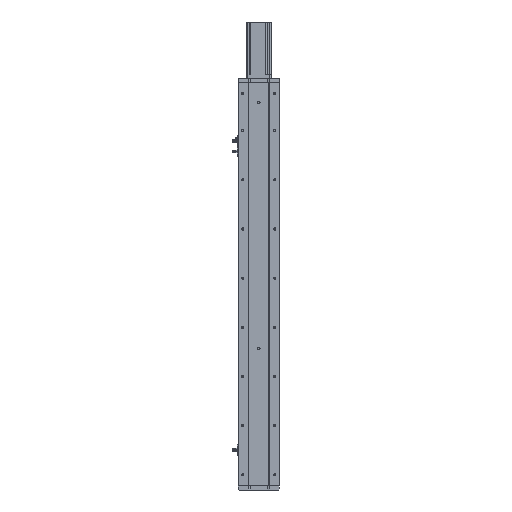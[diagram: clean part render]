
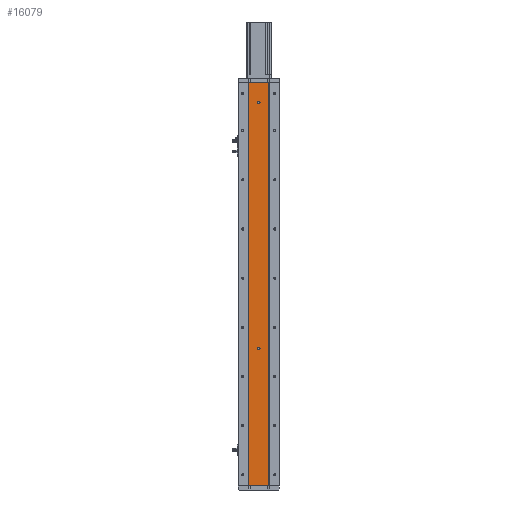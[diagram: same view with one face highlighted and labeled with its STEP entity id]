
A CAD part, left-side view. The second image highlights one B-rep face of the part: STEP entity #16079.
In plain terms, the highlighted planar face has unit normal (-1, 0, 0).
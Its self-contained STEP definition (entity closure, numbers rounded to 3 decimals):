
#345 = AXIS2_PLACEMENT_3D ( 'NONE', #36694, #17177, #39999 ) ;
#692 = VERTEX_POINT ( 'NONE', #10237 ) ;
#2375 = VECTOR ( 'NONE', #36708, 1000. ) ;
#4261 = CARTESIAN_POINT ( 'NONE',  ( -18.926, 0., 935. ) ) ;
#4463 = CARTESIAN_POINT ( 'NONE',  ( -18.926, 24.785, 985. ) ) ;
#4665 = CARTESIAN_POINT ( 'NONE',  ( -18.926, 24.785, 985. ) ) ;
#4821 = CARTESIAN_POINT ( 'NONE',  ( -18.926, -24.785, 985. ) ) ;
#4851 = VECTOR ( 'NONE', #30835, 1000. ) ;
#5775 = FACE_BOUND ( 'NONE', #11322, .T. ) ;
#6216 = VERTEX_POINT ( 'NONE', #28707 ) ;
#7237 = AXIS2_PLACEMENT_3D ( 'NONE', #4463, #27371, #7778 ) ;
#7567 = DIRECTION ( 'NONE',  ( 0., 0., 1. ) ) ;
#7778 = DIRECTION ( 'NONE',  ( 0., 0., -1. ) ) ;
#8163 = ORIENTED_EDGE ( 'NONE', *, *, #15232, .F. ) ;
#8351 = CARTESIAN_POINT ( 'NONE',  ( -18.926, 24.785, 0. ) ) ;
#8797 = CARTESIAN_POINT ( 'NONE',  ( -18.926, 0., 335. ) ) ;
#9361 = ORIENTED_EDGE ( 'NONE', *, *, #33111, .T. ) ;
#10237 = CARTESIAN_POINT ( 'NONE',  ( -18.926, 24.785, 985. ) ) ;
#10461 = CIRCLE ( 'NONE', #16749, 3. ) ;
#10624 = CARTESIAN_POINT ( 'NONE',  ( -18.926, -24.785, 985. ) ) ;
#10991 = EDGE_LOOP ( 'NONE', ( #15317, #41967, #8163, #9361 ) ) ;
#11322 = EDGE_LOOP ( 'NONE', ( #20265, #14601 ) ) ;
#11656 = DIRECTION ( 'NONE',  ( 0., -1., 0. ) ) ;
#12092 = DIRECTION ( 'NONE',  ( 0., 0., 1. ) ) ;
#12277 = EDGE_CURVE ( 'NONE', #38129, #14719, #37068, .T. ) ;
#12297 = FACE_BOUND ( 'NONE', #27976, .T. ) ;
#12794 = CIRCLE ( 'NONE', #41210, 3. ) ;
#13102 = CARTESIAN_POINT ( 'NONE',  ( -18.926, 0., 335. ) ) ;
#13573 = LINE ( 'NONE', #4665, #4851 ) ;
#13757 = CARTESIAN_POINT ( 'NONE',  ( -18.926, 24.785, 985. ) ) ;
#13922 = DIRECTION ( 'NONE',  ( 0., -1., 0. ) ) ;
#14533 = EDGE_CURVE ( 'NONE', #16451, #6216, #10461, .T. ) ;
#14601 = ORIENTED_EDGE ( 'NONE', *, *, #39537, .F. ) ;
#14719 = VERTEX_POINT ( 'NONE', #27391 ) ;
#15227 = EDGE_CURVE ( 'NONE', #24174, #38309, #15514, .T. ) ;
#15232 = EDGE_CURVE ( 'NONE', #692, #38129, #40480, .T. ) ;
#15317 = ORIENTED_EDGE ( 'NONE', *, *, #27883, .T. ) ;
#15447 = LINE ( 'NONE', #8351, #31765 ) ;
#15514 = CIRCLE ( 'NONE', #345, 3. ) ;
#16079 = ADVANCED_FACE ( 'NONE', ( #12297, #5775, #39483 ), #30500, .F. ) ;
#16391 = CIRCLE ( 'NONE', #33684, 3. ) ;
#16393 = DIRECTION ( 'NONE',  ( 0., 0., 1. ) ) ;
#16451 = VERTEX_POINT ( 'NONE', #29411 ) ;
#16749 = AXIS2_PLACEMENT_3D ( 'NONE', #13102, #35923, #16393 ) ;
#17177 = DIRECTION ( 'NONE',  ( -1., 0., 0. ) ) ;
#20265 = ORIENTED_EDGE ( 'NONE', *, *, #15227, .F. ) ;
#21381 = VERTEX_POINT ( 'NONE', #25951 ) ;
#21814 = CARTESIAN_POINT ( 'NONE',  ( -18.926, 0., 938. ) ) ;
#22795 = CARTESIAN_POINT ( 'NONE',  ( -18.926, 0., 932. ) ) ;
#23029 = EDGE_CURVE ( 'NONE', #6216, #16451, #16391, .T. ) ;
#24174 = VERTEX_POINT ( 'NONE', #21814 ) ;
#25951 = CARTESIAN_POINT ( 'NONE',  ( -18.926, 24.785, 0. ) ) ;
#27163 = DIRECTION ( 'NONE',  ( -1., 0., 0. ) ) ;
#27371 = DIRECTION ( 'NONE',  ( 1., 0., 0. ) ) ;
#27391 = CARTESIAN_POINT ( 'NONE',  ( -18.926, -24.785, 0. ) ) ;
#27883 = EDGE_CURVE ( 'NONE', #21381, #14719, #15447, .T. ) ;
#27976 = EDGE_LOOP ( 'NONE', ( #39846, #30659 ) ) ;
#28707 = CARTESIAN_POINT ( 'NONE',  ( -18.926, 0., 338. ) ) ;
#29411 = CARTESIAN_POINT ( 'NONE',  ( -18.926, 0., 332. ) ) ;
#30500 = PLANE ( 'NONE',  #7237 ) ;
#30659 = ORIENTED_EDGE ( 'NONE', *, *, #14533, .F. ) ;
#30802 = VECTOR ( 'NONE', #13922, 1000. ) ;
#30835 = DIRECTION ( 'NONE',  ( 0., 0., -1. ) ) ;
#31654 = DIRECTION ( 'NONE',  ( -1., 0., 0. ) ) ;
#31765 = VECTOR ( 'NONE', #11656, 1000. ) ;
#33111 = EDGE_CURVE ( 'NONE', #692, #21381, #13573, .T. ) ;
#33684 = AXIS2_PLACEMENT_3D ( 'NONE', #8797, #31654, #12092 ) ;
#35923 = DIRECTION ( 'NONE',  ( -1., 0., 0. ) ) ;
#36694 = CARTESIAN_POINT ( 'NONE',  ( -18.926, 0., 935. ) ) ;
#36708 = DIRECTION ( 'NONE',  ( 0., 0., -1. ) ) ;
#37068 = LINE ( 'NONE', #10624, #2375 ) ;
#38129 = VERTEX_POINT ( 'NONE', #4821 ) ;
#38309 = VERTEX_POINT ( 'NONE', #22795 ) ;
#39483 = FACE_OUTER_BOUND ( 'NONE', #10991, .T. ) ;
#39537 = EDGE_CURVE ( 'NONE', #38309, #24174, #12794, .T. ) ;
#39846 = ORIENTED_EDGE ( 'NONE', *, *, #23029, .F. ) ;
#39999 = DIRECTION ( 'NONE',  ( 0., 0., 1. ) ) ;
#40480 = LINE ( 'NONE', #13757, #30802 ) ;
#41210 = AXIS2_PLACEMENT_3D ( 'NONE', #4261, #27163, #7567 ) ;
#41967 = ORIENTED_EDGE ( 'NONE', *, *, #12277, .F. ) ;
